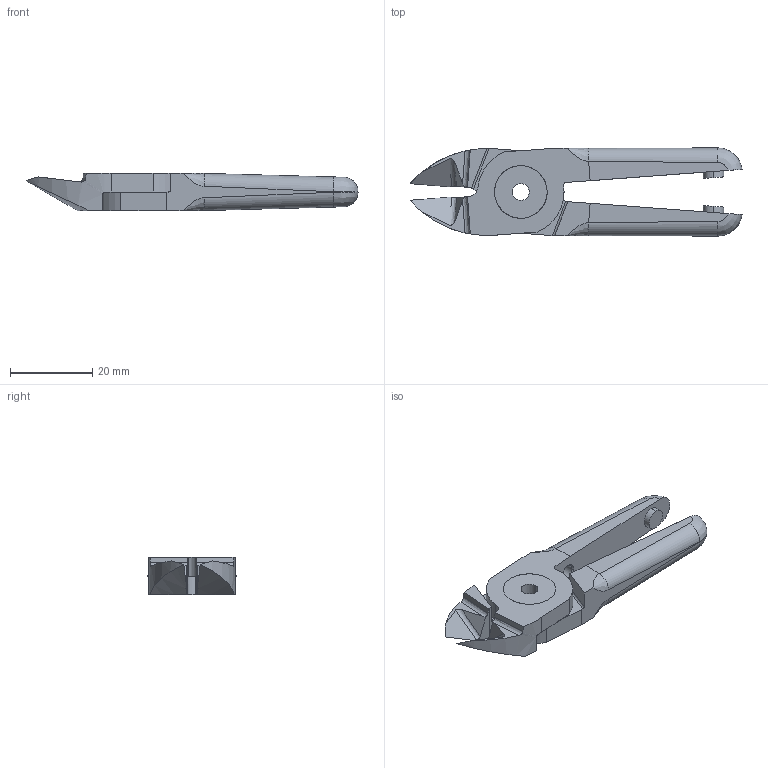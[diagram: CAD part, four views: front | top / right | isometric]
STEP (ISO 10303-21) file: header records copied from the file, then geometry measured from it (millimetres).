
FILE_DESCRIPTION (( 'STEP AP214' ), '1' );
FILE_NAME ('N7AP.STEP', '2019-11-29T03:20:04', ( '微软用户' ), ( '微软中国' ), 'SwSTEP 2.0', 'SolidWorks 2016', '' );
FILE_SCHEMA (( 'AUTOMOTIVE_DESIGN' ));
Length unit declared in the file: millimetre
Products named in the file (4): BR2; BR1; BS; N7AP
Assembly tree (3 placements, depth 2):
  N7AP
    BS
    BR1
    BR2
Bounding box: 80.67 x 21.43 x 9 mm (x, y, z)
Volume: 8699.2 mm3; surface area: 6050.2 mm2
Topology: 3 solids, 3 shells, 112 faces, 300 edges, 188 vertices
Faces by surface type: plane 42, bspline 27, cylinder 25, cone 18
Entity records: 4771 total; most frequent: CARTESIAN_POINT 2146, ORIENTED_EDGE 580, DIRECTION 436, EDGE_CURVE 290, VERTEX_POINT 188, AXIS2_PLACEMENT_3D 150, VECTOR 136, LINE 136
